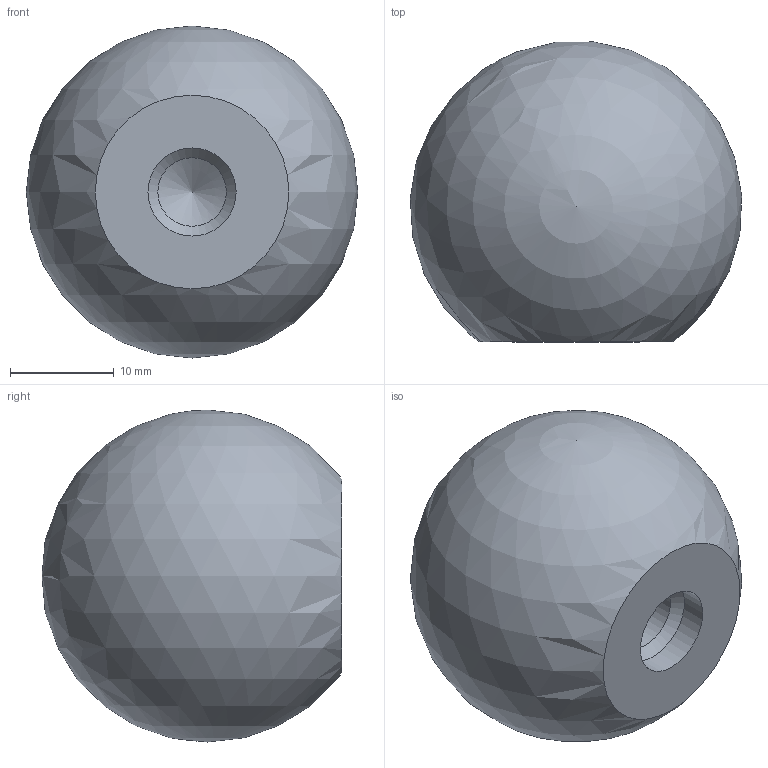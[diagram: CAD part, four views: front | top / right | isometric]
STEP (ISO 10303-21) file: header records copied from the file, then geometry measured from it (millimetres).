
FILE_DESCRIPTION (( 'STEP AP214' ), '1' );
FILE_NAME ('319-KU-32-M8-C.step', '2019-04-24T08:50:22', ( 'user' ), ( '' ), 'SwSTEP 2.0', 'SolidWorks 2019', '' );
FILE_SCHEMA (( 'AUTOMOTIVE_DESIGN' ));
Length unit declared in the file: millimetre
Products named in the file (1): 319-KU-32-M8-C
Bounding box: 31.94 x 28.91 x 32 mm (x, y, z)
Volume: 16130.8 mm3; surface area: 3510 mm2
Topology: 1 solids, 1 shells, 6 faces, 15 edges, 10 vertices
Faces by surface type: cone 2, cylinder 2, plane 1, sphere 1
Full cylindrical faces by diameter (mm): 6.6 x1, 8.5 x1
Entity records: 159 total; most frequent: DIRECTION 24, CARTESIAN_POINT 17, AXIS2_PLACEMENT_3D 12, ORIENTED_EDGE 10, EDGE_LOOP 10, FACE_OUTER_BOUND 8, ADVANCED_FACE 6, VERTEX_POINT 5
